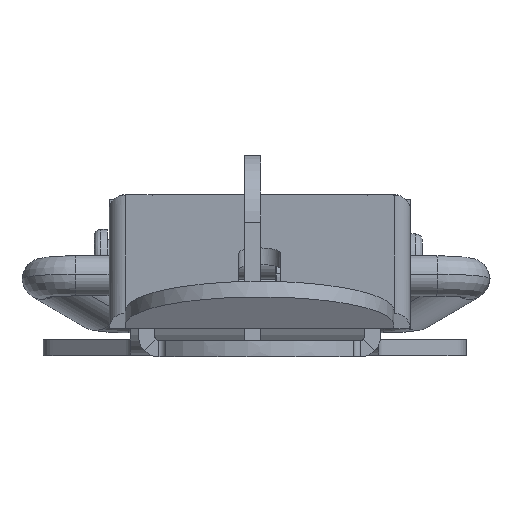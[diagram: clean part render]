
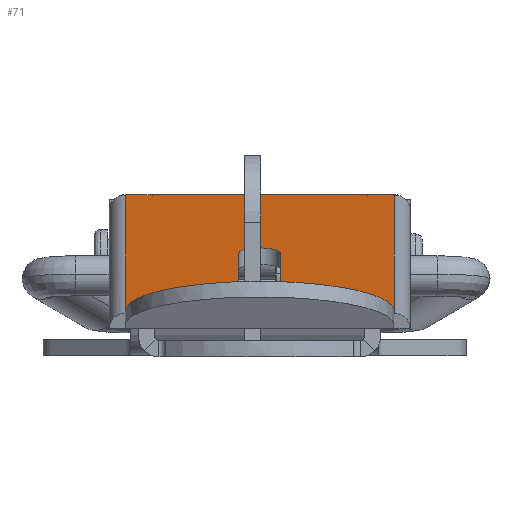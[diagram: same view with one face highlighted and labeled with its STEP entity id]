
A CAD part, left-side view. The second image highlights one B-rep face of the part: STEP entity #71.
In plain terms, the highlighted planar face has unit normal (-0.237, 0, 0.972).
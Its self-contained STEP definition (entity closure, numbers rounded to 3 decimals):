
#19=FACE_BOUND('',#424,.T.);
#71=ADVANCED_FACE('',(#246,#19),#2823,.T.);
#246=FACE_OUTER_BOUND('',#423,.T.);
#423=EDGE_LOOP('',(#708,#709,#710,#711,#712,#713,#714,#715,#716,#717,#718,
#719,#720,#721));
#424=EDGE_LOOP('',(#722,#723,#724,#725));
#708=ORIENTED_EDGE('',*,*,#1493,.T.);
#709=ORIENTED_EDGE('',*,*,#1494,.T.);
#710=ORIENTED_EDGE('',*,*,#1495,.T.);
#711=ORIENTED_EDGE('',*,*,#1496,.T.);
#712=ORIENTED_EDGE('',*,*,#1497,.T.);
#713=ORIENTED_EDGE('',*,*,#1498,.T.);
#714=ORIENTED_EDGE('',*,*,#1499,.T.);
#715=ORIENTED_EDGE('',*,*,#1500,.T.);
#716=ORIENTED_EDGE('',*,*,#1501,.T.);
#717=ORIENTED_EDGE('',*,*,#1502,.T.);
#718=ORIENTED_EDGE('',*,*,#1503,.T.);
#719=ORIENTED_EDGE('',*,*,#1504,.T.);
#720=ORIENTED_EDGE('',*,*,#1505,.T.);
#721=ORIENTED_EDGE('',*,*,#1506,.T.);
#722=ORIENTED_EDGE('',*,*,#1510,.T.);
#723=ORIENTED_EDGE('',*,*,#1507,.T.);
#724=ORIENTED_EDGE('',*,*,#1508,.T.);
#725=ORIENTED_EDGE('',*,*,#1509,.T.);
#1493=EDGE_CURVE('',#2505,#2506,#2284,.T.);
#1494=EDGE_CURVE('',#2506,#2507,#2285,.T.);
#1495=EDGE_CURVE('',#2507,#2508,#2286,.T.);
#1496=EDGE_CURVE('',#2508,#2509,#2287,.T.);
#1497=EDGE_CURVE('',#2509,#2510,#2288,.T.);
#1498=EDGE_CURVE('',#2510,#2511,#2289,.T.);
#1499=EDGE_CURVE('',#2511,#2512,#2290,.T.);
#1500=EDGE_CURVE('',#2512,#2513,#2291,.T.);
#1501=EDGE_CURVE('',#2513,#2514,#2292,.T.);
#1502=EDGE_CURVE('',#2514,#2515,#2293,.T.);
#1503=EDGE_CURVE('',#2515,#2516,#2294,.T.);
#1504=EDGE_CURVE('',#2516,#2517,#2295,.T.);
#1505=EDGE_CURVE('',#2517,#2518,#2296,.T.);
#1506=EDGE_CURVE('',#2518,#2505,#2297,.T.);
#1507=EDGE_CURVE('',#2519,#2520,#2298,.T.);
#1508=EDGE_CURVE('',#2520,#2521,#2299,.T.);
#1509=EDGE_CURVE('',#2521,#2522,#2300,.T.);
#1510=EDGE_CURVE('',#2522,#2519,#2301,.T.);
#2284=B_SPLINE_CURVE_WITH_KNOTS('',1,(#4472,#4473),.UNSPECIFIED.,.F.,.F.,
(2,2),(0.,0.033),.UNSPECIFIED.);
#2285=B_SPLINE_CURVE_WITH_KNOTS('',1,(#4474,#4475,#4476),.UNSPECIFIED.,
 .F.,.F.,(2,1,2),(0.,1.,2.),.UNSPECIFIED.);
#2286=B_SPLINE_CURVE_WITH_KNOTS('',1,(#4477,#4478),.UNSPECIFIED.,.F.,.F.,
(2,2),(0.,0.002),.UNSPECIFIED.);
#2287=B_SPLINE_CURVE_WITH_KNOTS('',1,(#4479,#4480),.UNSPECIFIED.,.F.,.F.,
(2,2),(0.,0.01),.UNSPECIFIED.);
#2288=B_SPLINE_CURVE_WITH_KNOTS('',1,(#4481,#4482),.UNSPECIFIED.,.F.,.F.,
(2,2),(0.,37.287),.UNSPECIFIED.);
#2289=B_SPLINE_CURVE_WITH_KNOTS('',1,(#4483,#4484),.UNSPECIFIED.,.F.,.F.,
(2,2),(0.,0.01),.UNSPECIFIED.);
#2290=B_SPLINE_CURVE_WITH_KNOTS('',1,(#4485,#4486),.UNSPECIFIED.,.F.,.F.,
(2,2),(0.,20.),.UNSPECIFIED.);
#2291=B_SPLINE_CURVE_WITH_KNOTS('',1,(#4487,#4488),.UNSPECIFIED.,.F.,.F.,
(2,2),(0.,0.01),.UNSPECIFIED.);
#2292=B_SPLINE_CURVE_WITH_KNOTS('',1,(#4489,#4490),.UNSPECIFIED.,.F.,.F.,
(2,2),(0.,37.287),.UNSPECIFIED.);
#2293=B_SPLINE_CURVE_WITH_KNOTS('',1,(#4491,#4492),.UNSPECIFIED.,.F.,.F.,
(2,2),(0.,0.01),.UNSPECIFIED.);
#2294=B_SPLINE_CURVE_WITH_KNOTS('',1,(#4493,#4494),.UNSPECIFIED.,.F.,.F.,
(2,2),(0.,0.002),.UNSPECIFIED.);
#2295=B_SPLINE_CURVE_WITH_KNOTS('',1,(#4495,#4496,#4497),.UNSPECIFIED.,
 .F.,.F.,(2,1,2),(0.,1.,2.),.UNSPECIFIED.);
#2296=B_SPLINE_CURVE_WITH_KNOTS('',1,(#4498,#4499),.UNSPECIFIED.,.F.,.F.,
(2,2),(0.,0.033),.UNSPECIFIED.);
#2297=B_SPLINE_CURVE_WITH_KNOTS('',1,(#4500,#4501),.UNSPECIFIED.,.F.,.F.,
(2,2),(0.,16.),.UNSPECIFIED.);
#2298=B_SPLINE_CURVE_WITH_KNOTS('',3,(#4502,#4503,#4504,#4505,#4506,#4507,
#4508,#4509,#4510,#4511,#4512,#4513,#4514,#4515,#4516,#4517,#4518,#4519,
#4520),.UNSPECIFIED.,.F.,.F.,(4,2,2,2,3,2,2,2,4),(0.,0.62,
1.241,1.864,2.486,3.109,3.732,
4.352,4.973),.UNSPECIFIED.);
#2299=B_SPLINE_CURVE_WITH_KNOTS('',1,(#4521,#4522),.UNSPECIFIED.,.F.,.F.,
(2,2),(0.,15.027),.UNSPECIFIED.);
#2300=B_SPLINE_CURVE_WITH_KNOTS('',3,(#4523,#4524,#4525,#4526,#4527,#4528,
#4529,#4530,#4531,#4532,#4533,#4534,#4535,#4536,#4537,#4538,#4539,#4540,
#4541),.UNSPECIFIED.,.F.,.F.,(4,2,2,2,3,2,2,2,4),(0.,0.62,1.241,
1.864,2.486,3.109,3.732,4.352,
4.973),.UNSPECIFIED.);
#2301=B_SPLINE_CURVE_WITH_KNOTS('',1,(#4542,#4543),.UNSPECIFIED.,.F.,.F.,
(2,2),(0.,15.027),.UNSPECIFIED.);
#2505=VERTEX_POINT('',#4324);
#2506=VERTEX_POINT('',#4325);
#2507=VERTEX_POINT('',#4326);
#2508=VERTEX_POINT('',#4327);
#2509=VERTEX_POINT('',#4328);
#2510=VERTEX_POINT('',#4329);
#2511=VERTEX_POINT('',#4330);
#2512=VERTEX_POINT('',#4331);
#2513=VERTEX_POINT('',#4332);
#2514=VERTEX_POINT('',#4333);
#2515=VERTEX_POINT('',#4334);
#2516=VERTEX_POINT('',#4335);
#2517=VERTEX_POINT('',#4336);
#2518=VERTEX_POINT('',#4337);
#2519=VERTEX_POINT('',#4338);
#2520=VERTEX_POINT('',#4339);
#2521=VERTEX_POINT('',#4340);
#2522=VERTEX_POINT('',#4341);
#2823=PLANE('',#3003);
#3003=AXIS2_PLACEMENT_3D('',#3947,#3321,$);
#3321=DIRECTION('',(-0.237,0.,0.972));
#3947=CARTESIAN_POINT('',(-17.196,-0.824,-3.305));
#4324=CARTESIAN_POINT('',(22.633,19.2,6.403));
#4325=CARTESIAN_POINT('',(22.665,19.2,6.41));
#4326=CARTESIAN_POINT('',(22.665,21.2,6.41));
#4327=CARTESIAN_POINT('',(22.667,21.2,6.411));
#4328=CARTESIAN_POINT('',(22.667,21.21,6.411));
#4329=CARTESIAN_POINT('',(-13.56,21.21,-2.419));
#4330=CARTESIAN_POINT('',(-13.56,21.2,-2.419));
#4331=CARTESIAN_POINT('',(-13.56,1.2,-2.419));
#4332=CARTESIAN_POINT('',(-13.56,1.19,-2.419));
#4333=CARTESIAN_POINT('',(22.667,1.19,6.411));
#4334=CARTESIAN_POINT('',(22.667,1.2,6.411));
#4335=CARTESIAN_POINT('',(22.665,1.2,6.41));
#4336=CARTESIAN_POINT('',(22.665,3.2,6.41));
#4337=CARTESIAN_POINT('',(22.633,3.2,6.403));
#4338=CARTESIAN_POINT('',(4.851,12.755,2.069));
#4339=CARTESIAN_POINT('',(4.851,9.655,2.069));
#4340=CARTESIAN_POINT('',(-9.749,9.655,-1.49));
#4341=CARTESIAN_POINT('',(-9.749,12.755,-1.49));
#4472=CARTESIAN_POINT('',(22.633,19.2,6.403));
#4473=CARTESIAN_POINT('',(22.665,19.2,6.41));
#4474=CARTESIAN_POINT('',(22.665,19.2,6.41));
#4475=CARTESIAN_POINT('',(22.665,20.2,6.41));
#4476=CARTESIAN_POINT('',(22.665,21.2,6.41));
#4477=CARTESIAN_POINT('',(22.665,21.2,6.41));
#4478=CARTESIAN_POINT('',(22.667,21.2,6.411));
#4479=CARTESIAN_POINT('',(22.667,21.2,6.411));
#4480=CARTESIAN_POINT('',(22.667,21.21,6.411));
#4481=CARTESIAN_POINT('',(22.667,21.21,6.411));
#4482=CARTESIAN_POINT('',(-13.56,21.21,-2.419));
#4483=CARTESIAN_POINT('',(-13.56,21.21,-2.419));
#4484=CARTESIAN_POINT('',(-13.56,21.2,-2.419));
#4485=CARTESIAN_POINT('',(-13.56,21.2,-2.419));
#4486=CARTESIAN_POINT('',(-13.56,1.2,-2.419));
#4487=CARTESIAN_POINT('',(-13.56,1.2,-2.419));
#4488=CARTESIAN_POINT('',(-13.56,1.19,-2.419));
#4489=CARTESIAN_POINT('',(-13.56,1.19,-2.419));
#4490=CARTESIAN_POINT('',(22.667,1.19,6.411));
#4491=CARTESIAN_POINT('',(22.667,1.19,6.411));
#4492=CARTESIAN_POINT('',(22.667,1.2,6.411));
#4493=CARTESIAN_POINT('',(22.667,1.2,6.411));
#4494=CARTESIAN_POINT('',(22.665,1.2,6.41));
#4495=CARTESIAN_POINT('',(22.665,1.2,6.41));
#4496=CARTESIAN_POINT('',(22.665,2.2,6.41));
#4497=CARTESIAN_POINT('',(22.665,3.2,6.41));
#4498=CARTESIAN_POINT('',(22.665,3.2,6.41));
#4499=CARTESIAN_POINT('',(22.633,3.2,6.403));
#4500=CARTESIAN_POINT('',(22.633,3.2,6.403));
#4501=CARTESIAN_POINT('',(22.633,19.2,6.403));
#4502=CARTESIAN_POINT('',(4.851,12.755,2.069));
#4503=CARTESIAN_POINT('',(5.051,12.755,2.118));
#4504=CARTESIAN_POINT('',(5.25,12.716,2.166));
#4505=CARTESIAN_POINT('',(5.623,12.564,2.257));
#4506=CARTESIAN_POINT('',(5.793,12.452,2.298));
#4507=CARTESIAN_POINT('',(6.083,12.167,2.369));
#4508=CARTESIAN_POINT('',(6.2,11.996,2.397));
#4509=CARTESIAN_POINT('',(6.36,11.616,2.436));
#4510=CARTESIAN_POINT('',(6.401,11.412,2.447));
#4511=CARTESIAN_POINT('',(6.401,11.205,2.447));
#4512=CARTESIAN_POINT('',(6.401,10.997,2.447));
#4513=CARTESIAN_POINT('',(6.36,10.793,2.436));
#4514=CARTESIAN_POINT('',(6.2,10.413,2.397));
#4515=CARTESIAN_POINT('',(6.083,10.242,2.369));
#4516=CARTESIAN_POINT('',(5.793,9.957,2.298));
#4517=CARTESIAN_POINT('',(5.623,9.845,2.257));
#4518=CARTESIAN_POINT('',(5.25,9.693,2.166));
#4519=CARTESIAN_POINT('',(5.051,9.655,2.118));
#4520=CARTESIAN_POINT('',(4.851,9.655,2.069));
#4521=CARTESIAN_POINT('',(4.851,9.655,2.069));
#4522=CARTESIAN_POINT('',(-9.749,9.655,-1.49));
#4523=CARTESIAN_POINT('',(-9.749,9.655,-1.49));
#4524=CARTESIAN_POINT('',(-9.949,9.655,-1.539));
#4525=CARTESIAN_POINT('',(-10.148,9.693,-1.587));
#4526=CARTESIAN_POINT('',(-10.52,9.845,-1.678));
#4527=CARTESIAN_POINT('',(-10.691,9.957,-1.719));
#4528=CARTESIAN_POINT('',(-10.981,10.242,-1.79));
#4529=CARTESIAN_POINT('',(-11.097,10.413,-1.818));
#4530=CARTESIAN_POINT('',(-11.257,10.793,-1.857));
#4531=CARTESIAN_POINT('',(-11.299,10.997,-1.868));
#4532=CARTESIAN_POINT('',(-11.299,11.205,-1.868));
#4533=CARTESIAN_POINT('',(-11.299,11.412,-1.868));
#4534=CARTESIAN_POINT('',(-11.257,11.616,-1.857));
#4535=CARTESIAN_POINT('',(-11.097,11.996,-1.818));
#4536=CARTESIAN_POINT('',(-10.981,12.167,-1.79));
#4537=CARTESIAN_POINT('',(-10.691,12.452,-1.719));
#4538=CARTESIAN_POINT('',(-10.52,12.564,-1.678));
#4539=CARTESIAN_POINT('',(-10.148,12.716,-1.587));
#4540=CARTESIAN_POINT('',(-9.949,12.755,-1.539));
#4541=CARTESIAN_POINT('',(-9.749,12.755,-1.49));
#4542=CARTESIAN_POINT('',(-9.749,12.755,-1.49));
#4543=CARTESIAN_POINT('',(4.851,12.755,2.069));
